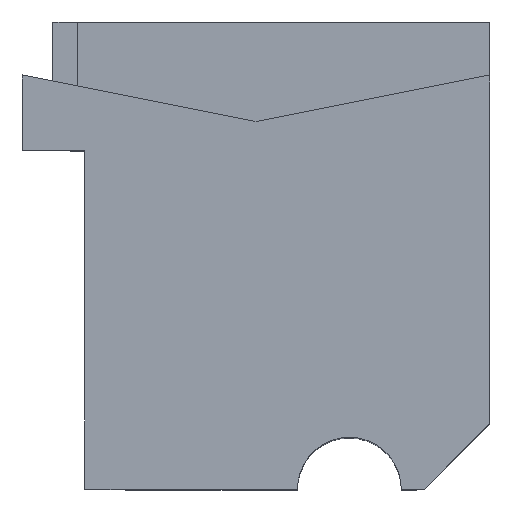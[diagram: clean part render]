
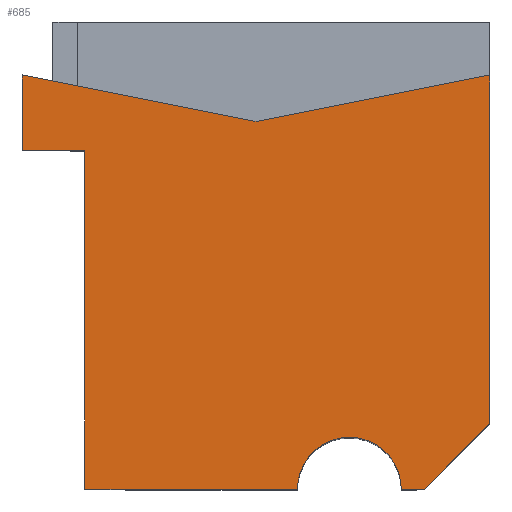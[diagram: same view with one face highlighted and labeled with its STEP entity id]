
A CAD part, top view. The second image highlights one B-rep face of the part: STEP entity #685.
In plain terms, the highlighted planar face has unit normal (0, 0, 1).
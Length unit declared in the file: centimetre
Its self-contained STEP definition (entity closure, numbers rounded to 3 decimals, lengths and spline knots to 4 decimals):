
#2 = CARTESIAN_POINT ( 'NONE',  ( 1000., 140.1381, 1000. ) ) ;
#48 = CARTESIAN_POINT ( 'NONE',  ( 1000., 885.385, 1000. ) ) ;
#54 = CARTESIAN_POINT ( 'NONE',  ( 859.8619, 0., 1000. ) ) ;
#69 = ORIENTED_EDGE ( 'NONE', *, *, #354, .T. ) ;
#84 = CARTESIAN_POINT ( 'NONE',  ( 500., 786.0727, 1000. ) ) ;
#85 = VERTEX_POINT ( 'NONE', #711 ) ;
#86 = DIRECTION ( 'NONE',  ( 1., 0., 0. ) ) ;
#99 = VERTEX_POINT ( 'NONE', #570 ) ;
#108 = AXIS2_PLACEMENT_3D ( 'NONE', #146, #773, #455 ) ;
#122 = DIRECTION ( 'NONE',  ( -1., 0., 0. ) ) ;
#127 = ORIENTED_EDGE ( 'NONE', *, *, #611, .T. ) ;
#129 = EDGE_CURVE ( 'NONE', #511, #988, #574, .T. ) ;
#131 = LINE ( 'NONE', #48, #701 ) ;
#133 = FACE_OUTER_BOUND ( 'NONE', #533, .T. ) ;
#146 = CARTESIAN_POINT ( 'NONE',  ( 0., 0., 1000. ) ) ;
#163 = EDGE_CURVE ( 'NONE', #988, #524, #175, .T. ) ;
#164 = CARTESIAN_POINT ( 'NONE',  ( 0., 0., 1000. ) ) ;
#173 = EDGE_CURVE ( 'NONE', #85, #386, #486, .T. ) ;
#175 = LINE ( 'NONE', #340, #678 ) ;
#183 = DIRECTION ( 'NONE',  ( 0.981, -0.195, 0. ) ) ;
#212 = VERTEX_POINT ( 'NONE', #824 ) ;
#220 = PLANE ( 'NONE',  #108 ) ;
#225 = VECTOR ( 'NONE', #295, 100. ) ;
#238 = ORIENTED_EDGE ( 'NONE', *, *, #756, .F. ) ;
#281 = CARTESIAN_POINT ( 'NONE',  ( 699.5999, 0., 1000. ) ) ;
#295 = DIRECTION ( 'NONE',  ( -1., 0., 0. ) ) ;
#340 = CARTESIAN_POINT ( 'NONE',  ( 429.9309, -429.9309, 1000. ) ) ;
#354 = EDGE_CURVE ( 'NONE', #386, #511, #438, .T. ) ;
#357 = VECTOR ( 'NONE', #500, 100. ) ;
#359 = DIRECTION ( 'NONE',  ( 0., 0., -1. ) ) ;
#369 = CARTESIAN_POINT ( 'NONE',  ( 588.582, 0., 1000. ) ) ;
#386 = VERTEX_POINT ( 'NONE', #369 ) ;
#403 = LINE ( 'NONE', #953, #764 ) ;
#432 = EDGE_CURVE ( 'NONE', #524, #852, #403, .T. ) ;
#438 = CIRCLE ( 'NONE', #827, 111.0179 ) ;
#444 = DIRECTION ( 'NONE',  ( 0.981, 0.195, 0. ) ) ;
#455 = DIRECTION ( 'NONE',  ( 1., 0., 0. ) ) ;
#464 = LINE ( 'NONE', #871, #225 ) ;
#470 = DIRECTION ( 'NONE',  ( 0., -1., 0. ) ) ;
#486 = LINE ( 'NONE', #904, #357 ) ;
#495 = EDGE_CURVE ( 'NONE', #99, #212, #556, .T. ) ;
#500 = DIRECTION ( 'NONE',  ( 1., 0., 0. ) ) ;
#505 = VERTEX_POINT ( 'NONE', #971 ) ;
#511 = VERTEX_POINT ( 'NONE', #720 ) ;
#523 = VECTOR ( 'NONE', #86, 100. ) ;
#524 = VERTEX_POINT ( 'NONE', #2 ) ;
#533 = EDGE_LOOP ( 'NONE', ( #950, #238, #576, #636, #127, #608, #69, #538, #719, #770 ) ) ;
#538 = ORIENTED_EDGE ( 'NONE', *, *, #129, .T. ) ;
#543 = VECTOR ( 'NONE', #183, 100. ) ;
#545 = VERTEX_POINT ( 'NONE', #84 ) ;
#556 = LINE ( 'NONE', #888, #899 ) ;
#558 = LINE ( 'NONE', #897, #543 ) ;
#570 = CARTESIAN_POINT ( 'NONE',  ( 0., 885.385, 1000. ) ) ;
#574 = LINE ( 'NONE', #164, #523 ) ;
#576 = ORIENTED_EDGE ( 'NONE', *, *, #495, .T. ) ;
#595 = EDGE_CURVE ( 'NONE', #505, #212, #464, .T. ) ;
#608 = ORIENTED_EDGE ( 'NONE', *, *, #173, .T. ) ;
#611 = EDGE_CURVE ( 'NONE', #505, #85, #621, .T. ) ;
#621 = LINE ( 'NONE', #634, #812 ) ;
#634 = CARTESIAN_POINT ( 'NONE',  ( 134.3406, 724.4386, 1000. ) ) ;
#636 = ORIENTED_EDGE ( 'NONE', *, *, #595, .F. ) ;
#678 = VECTOR ( 'NONE', #813, 100. ) ;
#685 = ADVANCED_FACE ( 'NONE', ( #133 ), #220, .T. ) ;
#701 = VECTOR ( 'NONE', #444, 100. ) ;
#711 = CARTESIAN_POINT ( 'NONE',  ( 134.3406, 0., 1000. ) ) ;
#719 = ORIENTED_EDGE ( 'NONE', *, *, #163, .T. ) ;
#720 = CARTESIAN_POINT ( 'NONE',  ( 810.6178, 0., 1000. ) ) ;
#756 = EDGE_CURVE ( 'NONE', #99, #545, #558, .T. ) ;
#764 = VECTOR ( 'NONE', #882, 100. ) ;
#770 = ORIENTED_EDGE ( 'NONE', *, *, #432, .T. ) ;
#773 = DIRECTION ( 'NONE',  ( 0., 0., 1. ) ) ;
#812 = VECTOR ( 'NONE', #865, 100. ) ;
#813 = DIRECTION ( 'NONE',  ( 0.707, 0.707, 0. ) ) ;
#824 = CARTESIAN_POINT ( 'NONE',  ( 0., 724.4386, 1000. ) ) ;
#827 = AXIS2_PLACEMENT_3D ( 'NONE', #281, #359, #122 ) ;
#852 = VERTEX_POINT ( 'NONE', #993 ) ;
#865 = DIRECTION ( 'NONE',  ( 0., -1., 0. ) ) ;
#871 = CARTESIAN_POINT ( 'NONE',  ( 0., 724.4386, 1000. ) ) ;
#882 = DIRECTION ( 'NONE',  ( 0., 1., 0. ) ) ;
#888 = CARTESIAN_POINT ( 'NONE',  ( 0., 1000., 1000. ) ) ;
#897 = CARTESIAN_POINT ( 'NONE',  ( 500., 786.0727, 1000. ) ) ;
#899 = VECTOR ( 'NONE', #470, 100. ) ;
#904 = CARTESIAN_POINT ( 'NONE',  ( 0., 0., 1000. ) ) ;
#950 = ORIENTED_EDGE ( 'NONE', *, *, #975, .F. ) ;
#953 = CARTESIAN_POINT ( 'NONE',  ( 1000., 1000., 1000. ) ) ;
#971 = CARTESIAN_POINT ( 'NONE',  ( 134.3406, 724.4386, 1000. ) ) ;
#975 = EDGE_CURVE ( 'NONE', #545, #852, #131, .T. ) ;
#988 = VERTEX_POINT ( 'NONE', #54 ) ;
#993 = CARTESIAN_POINT ( 'NONE',  ( 1000., 885.385, 1000. ) ) ;
